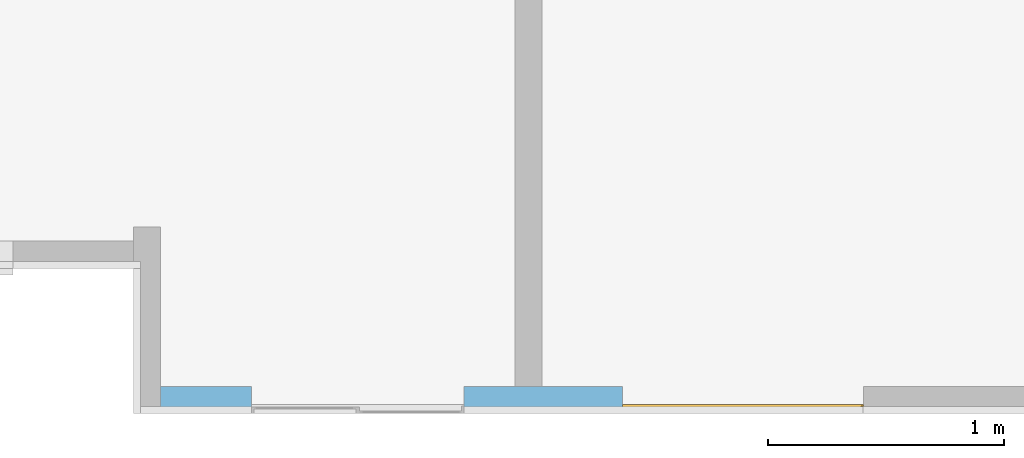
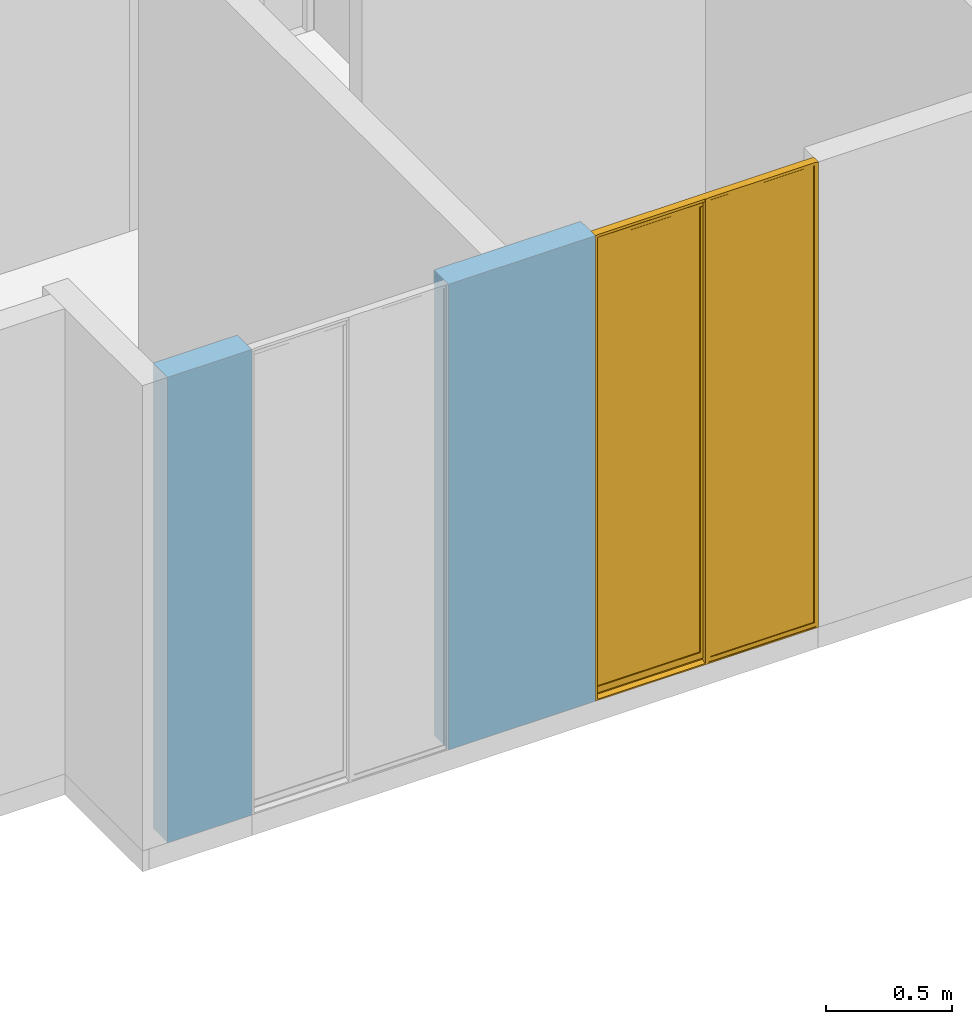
# One storey, part 12 of 47: 1 window, 2 openings, plus 1 element that does not belong to this part.
"""IFC4 building model written with IfcOpenShell, lengths in metres."""

from ifc_helpers import new_model, entity, si_unit, converted_unit, derived_unit, direction, frame, origin, place, context, subcontext, project, spatial, indexed_curve, outline, extrude, polygons, source, transform, mapped, material, constituent, constituent_set, type_object, type_shapes, element, fill, save


model = new_model("IFC4")

# Units and contexts
model_context = context("Model", 3, precision=1e-05, world=origin(), true_north=direction((6.123031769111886e-17, 1.0)))
body_context = subcontext(model_context, "Body", "Model", "MODEL_VIEW")
ifc_project = project(units=[si_unit("LENGTHUNIT", "METRE"), si_unit("AREAUNIT", "SQUARE_METRE"), si_unit("VOLUMEUNIT", "CUBIC_METRE"), converted_unit("PLANEANGLEUNIT", "DEGREE", entity("IfcRatioMeasure", 0.017453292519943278), si_unit("PLANEANGLEUNIT", "RADIAN"), dimensions=[0, 0, 0, 0, 0, 0, 0]), si_unit("MASSUNIT", "GRAM", prefix="KILO"), derived_unit("MASSDENSITYUNIT", [(si_unit("MASSUNIT", "GRAM", prefix="KILO"), 1), (si_unit("LENGTHUNIT", "METRE"), -3)]), derived_unit("IONCONCENTRATIONUNIT", [(si_unit("MASSUNIT", "GRAM", prefix="KILO"), 1), (si_unit("LENGTHUNIT", "METRE"), -3)]), derived_unit("MOMENTOFINERTIAUNIT", [(si_unit("LENGTHUNIT", "METRE"), 4)]), si_unit("TIMEUNIT", "SECOND"), si_unit("FREQUENCYUNIT", "HERTZ"), si_unit("THERMODYNAMICTEMPERATUREUNIT", "DEGREE_CELSIUS"), derived_unit("THERMALTRANSMITTANCEUNIT", [(si_unit("MASSUNIT", "GRAM", prefix="KILO"), 1), (si_unit("THERMODYNAMICTEMPERATUREUNIT", "KELVIN"), -1), (si_unit("TIMEUNIT", "SECOND"), -3)]), derived_unit("THERMALCONDUCTANCEUNIT", [(si_unit("MASSUNIT", "GRAM", prefix="KILO"), 1), (si_unit("THERMODYNAMICTEMPERATUREUNIT", "KELVIN"), -1), (si_unit("TIMEUNIT", "SECOND"), -3), (si_unit("LENGTHUNIT", "METRE"), 1)]), derived_unit("VOLUMETRICFLOWRATEUNIT", [(si_unit("LENGTHUNIT", "METRE"), 3), (si_unit("TIMEUNIT", "SECOND"), -1)]), derived_unit("MASSFLOWRATEUNIT", [(si_unit("MASSUNIT", "GRAM", prefix="KILO"), 1), (si_unit("TIMEUNIT", "SECOND"), -1)]), derived_unit("ROTATIONALFREQUENCYUNIT", [(si_unit("TIMEUNIT", "SECOND"), -1)]), si_unit("ELECTRICCURRENTUNIT", "AMPERE"), si_unit("ELECTRICVOLTAGEUNIT", "VOLT"), si_unit("POWERUNIT", "WATT"), si_unit("FORCEUNIT", "NEWTON", prefix="KILO"), si_unit("ILLUMINANCEUNIT", "LUX"), si_unit("LUMINOUSFLUXUNIT", "LUMEN"), si_unit("LUMINOUSINTENSITYUNIT", "CANDELA"), derived_unit("USERDEFINED", [(si_unit("MASSUNIT", "GRAM", prefix="KILO"), -1), (si_unit("LENGTHUNIT", "METRE"), -2), (si_unit("TIMEUNIT", "SECOND"), 3), (si_unit("LUMINOUSFLUXUNIT", "LUMEN"), 1)]), derived_unit("USERDEFINED", [(si_unit("MASSUNIT", "GRAM", prefix="KILO"), 1), (si_unit("TIMEUNIT", "SECOND"), -3), (si_unit("LENGTHUNIT", "METRE"), 3), (si_unit("ELECTRICCURRENTUNIT", "AMPERE"), -2)]), derived_unit("SOUNDPOWERUNIT", [(si_unit("MASSUNIT", "GRAM", prefix="KILO"), 1), (si_unit("TIMEUNIT", "SECOND"), -3), (si_unit("LENGTHUNIT", "METRE"), 2)]), derived_unit("SOUNDPRESSUREUNIT", [(si_unit("MASSUNIT", "GRAM", prefix="KILO"), 1), (si_unit("LENGTHUNIT", "METRE"), -1), (si_unit("TIMEUNIT", "SECOND"), -2)]), derived_unit("LINEARVELOCITYUNIT", [(si_unit("LENGTHUNIT", "METRE"), 1), (si_unit("TIMEUNIT", "SECOND"), -1)]), si_unit("PRESSUREUNIT", "PASCAL"), derived_unit("USERDEFINED", [(si_unit("MASSUNIT", "GRAM", prefix="KILO"), 1), (si_unit("LENGTHUNIT", "METRE"), -2), (si_unit("TIMEUNIT", "SECOND"), -2)]), derived_unit("LINEARFORCEUNIT", [(si_unit("MASSUNIT", "GRAM", prefix="KILO"), 1), (si_unit("TIMEUNIT", "SECOND"), -2)]), derived_unit("PLANARFORCEUNIT", [(si_unit("MASSUNIT", "GRAM", prefix="KILO"), 1), (si_unit("LENGTHUNIT", "METRE"), -1), (si_unit("TIMEUNIT", "SECOND"), -2)]), derived_unit("SPECIFICHEATCAPACITYUNIT", [(si_unit("THERMODYNAMICTEMPERATUREUNIT", "KELVIN"), -1), (si_unit("LENGTHUNIT", "METRE"), 2), (si_unit("TIMEUNIT", "SECOND"), -2)]), derived_unit("HEATINGVALUEUNIT", [(si_unit("LENGTHUNIT", "METRE"), 2), (si_unit("TIMEUNIT", "SECOND"), -2)]), derived_unit("VAPORPERMEABILITYUNIT", [(si_unit("LENGTHUNIT", "METRE"), -1), (si_unit("TIMEUNIT", "SECOND"), 1)]), derived_unit("DYNAMICVISCOSITYUNIT", [(si_unit("MASSUNIT", "GRAM", prefix="KILO"), 1), (si_unit("TIMEUNIT", "SECOND"), -1), (si_unit("LENGTHUNIT", "METRE"), -1)]), derived_unit("THERMALEXPANSIONCOEFFICIENTUNIT", [(si_unit("THERMODYNAMICTEMPERATUREUNIT", "KELVIN"), -1)]), derived_unit("MODULUSOFELASTICITYUNIT", [(si_unit("MASSUNIT", "GRAM", prefix="KILO"), 1), (si_unit("LENGTHUNIT", "METRE"), -1), (si_unit("TIMEUNIT", "SECOND"), -2)]), derived_unit("ISOTHERMALMOISTURECAPACITYUNIT", [(si_unit("LENGTHUNIT", "METRE"), 3), (si_unit("MASSUNIT", "GRAM", prefix="KILO"), -1)]), derived_unit("MOISTUREDIFFUSIVITYUNIT", [(si_unit("TIMEUNIT", "SECOND"), -1), (si_unit("LENGTHUNIT", "METRE"), 2)])], contexts=[model_context])

# Site, building, storey
site_placement = place(None, origin())
site = spatial("IfcSite", under=ifc_project, at=site_placement, Name="Default", CompositionType="ELEMENT")
building_placement = place(site_placement, origin())
building = spatial("IfcBuilding", under=site, at=building_placement, CompositionType="ELEMENT")
storey_placement = place(building_placement, frame((0.0, 0.0, 11.750000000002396)))
storey = spatial("IfcBuildingStorey", under=building, at=storey_placement, Name="Nivel 6", CompositionType="ELEMENT", Elevation=11.750000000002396)

# Wall, openings, window
ifc_material_1 = material(Name="Ladrillo claro (Aire)", Category="Materials")
wall_type = type_object("IfcWallType", Name="Basic Wall:B2010 - 0.115m - Muro exterior en mampostería - Ladrillo", PredefinedType="STANDARD")
wall_placement = place(storey_placement, frame((12.577500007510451, -12.812500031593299, 0.0)))
wall = element("IfcWall", 1, at=wall_placement, inside=storey, type_object=wall_type, material=ifc_material_1, Name="Basic Wall:B2010 - 0.115m - Muro exterior en mampostería - Ladrillo", ObjectType="Basic Wall:B2010 - 0.115m - Muro exterior en mampostería - Ladrillo", PredefinedType="NOTDEFINED", context=body_context, shape_type="Tessellation", body=[
    polygons([(1.1551788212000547e-17, -0.057499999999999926, 2.250000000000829), (1.1551788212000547e-17, -0.057499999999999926, -2.1657342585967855e-15), (0.3850000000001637, -0.057499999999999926, -2.1657342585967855e-15), (0.3850000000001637, -0.057499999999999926, 2.250000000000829), (6.500625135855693e-16, 0.057499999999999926, -2.1657342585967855e-15), (0.3850000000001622, 0.057499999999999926, -2.1657342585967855e-15), (0.3850000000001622, 0.057499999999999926, 2.250000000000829), (6.500625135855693e-16, 0.057499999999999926, 2.250000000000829)], [[[1, 2, 3, 4]], [[2, 5, 6, 3]], [[4, 3, 6, 7]], [[2, 1, 8, 5]], [[8, 1, 4, 7]], [[5, 8, 7, 6]]], closed=True),
    polygons([(1.9557999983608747, 0.057499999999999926, 2.250000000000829), (1.9557999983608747, 0.057499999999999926, -2.1657342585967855e-15), (1.6149999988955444, 0.05750000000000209, -2.1657342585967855e-15), (1.4999999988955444, 0.057499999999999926, -2.1657342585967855e-15), (1.2850000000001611, 0.057499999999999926, -2.1657342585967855e-15), (1.2850000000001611, 0.057499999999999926, 2.250000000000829), (1.4999999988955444, 0.057499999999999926, 2.2500000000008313), (1.6149999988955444, 0.05750000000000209, 2.2500000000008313), (1.9557999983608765, -0.057499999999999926, 2.250000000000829), (1.2850000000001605, -0.057499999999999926, 2.250000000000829), (1.9557999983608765, -0.057499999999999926, -2.1657342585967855e-15), (1.2850000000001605, -0.057499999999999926, -2.1657342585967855e-15)], [[[1, 2, 3, 4, 5, 6, 7, 8]], [[9, 1, 8, 7, 6, 10]], [[9, 11, 2, 1]], [[12, 10, 6, 5]], [[2, 11, 12, 5, 4, 3]], [[11, 9, 10, 12]]], closed=True),
])
opening_1_placement = place(wall_placement, frame((1.9557999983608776, -0.05749999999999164, 0.0)))
opening_1 = element("IfcOpeningElement", 2, at=opening_1_placement, cuts=wall, Name="B2020 - Ventana corrediza 2C - Aluminio + Vidrio:B2020 - 1.02m x 2.25m - Ventana corrediza 2C - Aluminio + Vidrio:1", PredefinedType="OPENING", context=body_context, shape_type="SweptSolid", body=[
    extrude(outline(indexed_curve([(0.0, 1.0199999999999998), (0.0, 7.374544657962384e-30), (2.2499999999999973, 7.374544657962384e-30), (2.249999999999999, 1.0199999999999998), (0.0, 1.0199999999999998)], self_intersect=False)), frame((0.0, 0.0, 0.0), z_axis=(0.0, 1.0, 0.0), x_axis=(0.0, 0.0, 1.0)), (0.0, 0.0, 1.0), 0.115),
])
opening_2_placement = place(wall_placement, frame((0.38500000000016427, -0.05749999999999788, 0.0)))
element("IfcOpeningElement", 3, at=opening_2_placement, cuts=wall, Name="B2020 - Ventana corrediza 2C - Aluminio + Vidrio:B2020 - 0.90m x 2.25m - Ventana corrediza 2C - Aluminio + Vidrio:1", PredefinedType="OPENING", context=body_context, shape_type="SweptSolid", body=[
    extrude(outline(indexed_curve([(0.0, 0.899999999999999), (0.0, 3.6637865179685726e-30), (2.2499999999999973, 3.6637865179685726e-30), (2.249999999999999, 0.899999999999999), (0.0, 0.899999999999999)], self_intersect=False)), frame((0.0, 0.0, 0.0), z_axis=(0.0, 1.0, 0.0), x_axis=(0.0, 0.0, 1.0)), (0.0, 0.0, 1.0), 0.115),
])
ifc_material_2 = material(Name="Vidrio", Category="Materials")
ifc_constituent_1 = constituent(ifc_material_2, Name="Vidrio", Category="Materials")
ifc_material_3 = material(Name="<Unnamed>")
ifc_constituent_2 = constituent(ifc_material_3, Name="<Unnamed>")
ifc_constituent_set_1 = constituent_set(constituents=[ifc_constituent_1, ifc_constituent_2])
ifc_constituent_3 = constituent(ifc_material_2, Name="Vidrio", Category="Materials")
ifc_constituent_4 = constituent(ifc_material_3, Name="<Unnamed>")
ifc_constituent_set_2 = constituent_set(constituents=[ifc_constituent_3, ifc_constituent_4])
window_type = type_object("IfcWindowType", Name="B2020 - Ventana corrediza 2C - Aluminio + Vidrio:B2020 - 1.02m x 2.25m - Ventana corrediza 2C - Aluminio + Vidrio", PartitioningType="NOTDEFINED", PredefinedType="WINDOW", material=ifc_constituent_set_2)
shared_shape = source(origin(), body_context, "Body", "Tessellation", [
    polygons([(0.48981286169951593, 0.11062877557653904, 0.028641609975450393), (0.48981286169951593, 0.10552744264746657, 0.028641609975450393), (0.01996764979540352, 0.10552744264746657, 0.028641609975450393), (0.019967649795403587, 0.11062877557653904, 0.028641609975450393), (0.48981286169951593, 0.11062877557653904, 2.2347073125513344), (0.48981286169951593, 0.10552744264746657, 2.2347073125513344), (0.01996764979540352, 0.10552744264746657, 2.2347073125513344), (0.019967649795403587, 0.11062877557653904, 2.2347073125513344)], [[[1, 2, 3, 4]], [[5, 6, 2, 1]], [[6, 7, 3, 2]], [[7, 8, 4, 3]], [[8, 5, 1, 4]], [[5, 8, 7, 6]]], closed=True),
    polygons([(1.0011536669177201, 0.0938089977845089, 0.054189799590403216), (1.0011536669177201, 0.08951300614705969, 0.054189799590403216), (0.5317289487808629, 0.08951300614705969, 0.054189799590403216), (0.5317289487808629, 0.0938089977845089, 0.054189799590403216), (1.0011536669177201, 0.0938089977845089, 2.2043993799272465), (1.0011536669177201, 0.08951300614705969, 2.2043993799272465), (0.5317289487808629, 0.08951300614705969, 2.2043993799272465), (0.5317289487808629, 0.0938089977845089, 2.2043993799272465)], [[[1, 2, 3, 4]], [[5, 6, 2, 1]], [[6, 7, 3, 2]], [[7, 8, 4, 3]], [[8, 5, 1, 4]], [[5, 8, 7, 6]]], closed=True),
    polygons([(1.0200000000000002, 0.07999999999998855, 0.020380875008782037), (1.0200000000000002, 0.07999999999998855, -2.5718094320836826e-15), (1.0200000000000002, 0.1149999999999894, -2.5718094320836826e-15), (1.0200000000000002, 0.1150000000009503, 2.2499999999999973), (1.0200000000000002, 0.07720993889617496, 2.2499999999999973), (1.0200000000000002, 0.07720993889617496, 2.2365872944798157), (1.0200000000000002, 0.07857307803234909, 2.2365872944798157), (1.0200000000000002, 0.07857307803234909, 2.24863686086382), (1.0200000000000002, 0.08683610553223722, 2.24863686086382), (1.0200000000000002, 0.0868361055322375, 0.017447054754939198), (1.0200000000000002, 0.08124999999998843, 0.017447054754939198), (1.0200000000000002, 0.08124999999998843, 0.02163087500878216), (1.0200000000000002, 0.07857761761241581, 0.02163087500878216), (1.0200000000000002, 0.07857761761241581, 0.025674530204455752), (1.0200000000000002, 0.07732761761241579, 0.025674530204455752), (1.0200000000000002, 0.07732761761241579, 0.020380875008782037), (2.0303758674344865e-16, 0.0799999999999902, 0.020380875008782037), (2.0303758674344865e-16, 0.0799999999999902, -2.5718094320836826e-15), (2.0303758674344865e-16, 0.11499999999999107, -2.5718094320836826e-15), (0.5033545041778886, 0.1149999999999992, 2.2499999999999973), (0.5166454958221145, 0.1149999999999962, 2.2499999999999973), (0.5166454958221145, 0.11499999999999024, 0.006176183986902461), (1.010102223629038, 0.11499999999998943, 0.006176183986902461), (1.010102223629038, 0.1150000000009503, 2.2499999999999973), (2.707167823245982e-16, 0.1150000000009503, 2.2499999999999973), (0.009999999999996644, 0.11500000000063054, 2.2499999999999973), (0.009999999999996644, 0.11499999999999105, 0.006176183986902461), (0.5033545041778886, 0.11499999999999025, 0.006176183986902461), (1.003701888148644, 0.08683610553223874, 2.2069861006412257), (1.0037018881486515, 0.0868361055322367, 0.0519155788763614), (0.5291807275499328, 0.08683610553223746, 0.0519155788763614), (0.5291807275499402, 0.08683610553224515, 2.2043993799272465), (0.5166454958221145, 0.08683610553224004, 2.2043993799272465), (0.5166454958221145, 0.08683610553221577, 2.2069861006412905), (1.0037018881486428, 0.08683610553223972, 2.237270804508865), (0.5166454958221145, 0.0868361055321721, 2.237270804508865), (0.5166454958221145, 0.08683610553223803, 2.24863686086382), (0.5019528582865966, 0.08683610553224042, 2.24863686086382), (0.5019528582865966, 0.08683610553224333, 0.01744705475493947), (0.5166454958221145, 0.08683610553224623, 0.017447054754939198), (0.5166454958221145, 0.08683610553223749, 0.021630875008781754), (1.0162371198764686, 0.08683610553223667, 0.02163087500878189), (1.0162371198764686, 0.08683610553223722, 0.01744705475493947), (1.0037018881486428, 0.08683610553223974, 2.24863686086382), (2.0303758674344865e-16, 0.0812499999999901, 0.017447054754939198), (1.0162371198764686, 0.09036136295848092, 0.017447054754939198), (0.5166454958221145, 0.09036136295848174, 0.017447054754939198), (0.5019528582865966, 0.09036136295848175, 0.017447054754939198), (0.009999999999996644, 0.09036136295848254, 0.017447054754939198), (0.009999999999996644, 0.08300000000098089, 0.017447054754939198), (2.0303758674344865e-16, 0.08300000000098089, 0.017447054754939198), (2.0303758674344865e-16, 0.0812499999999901, 0.02163087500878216), (2.0303758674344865e-16, 0.07857761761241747, 0.02163087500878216), (2.0303758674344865e-16, 0.07857761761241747, 0.025674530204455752), (2.0303758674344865e-16, 0.07732761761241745, 0.025674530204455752), (2.0303758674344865e-16, 0.07732761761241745, 0.020380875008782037), (1.0011570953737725, 0.09380711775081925, 0.054191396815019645), (1.0037018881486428, 0.09648589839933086, 0.051915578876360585), (0.529180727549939, 0.09648589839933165, 0.051915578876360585), (0.5317227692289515, 0.09380452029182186, 0.054191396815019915), (1.0037018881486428, 0.09648589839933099, 2.237270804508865), (1.0011536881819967, 0.09378706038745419, 2.237270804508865), (1.0011536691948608, 0.09378696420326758, 2.24863686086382), (1.0037018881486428, 0.09648589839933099, 2.24863686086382), (1.0037018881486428, 0.09648589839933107, 2.206986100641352), (0.5166454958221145, 0.09648589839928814, 2.2069861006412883), (0.5166454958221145, 0.09648589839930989, 2.237270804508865), (1.010102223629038, 0.09648589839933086, 2.24863686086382), (1.010102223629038, 0.09648589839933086, 0.021630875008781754), (0.5166454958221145, 0.09648589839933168, 0.02163087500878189), (0.5166454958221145, 0.09648589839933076, 2.2043993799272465), (0.5291807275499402, 0.09648589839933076, 2.2043993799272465), (0.5317289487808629, 0.09379979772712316, 2.2043993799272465), (1.0011598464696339, 0.08951748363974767, 0.05419139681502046), (0.5317255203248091, 0.08951488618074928, 0.05419139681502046), (1.0011537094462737, 0.08953496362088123, 2.237270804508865), (1.0011536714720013, 0.08953504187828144, 2.24863686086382), (0.5317289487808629, 0.08952211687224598, 2.2043992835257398), (0.5019528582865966, 0.10334183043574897, 2.24863686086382), (0.5019528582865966, 0.10334183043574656, 0.014402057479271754), (0.5019528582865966, 0.09363692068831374, 0.014402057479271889), (0.5019528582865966, 0.0936369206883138, 0.010600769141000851), (0.5019528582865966, 0.09036136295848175, 0.011279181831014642), (0.5166454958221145, 0.11281438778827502, 2.2499999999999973), (0.5166454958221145, 0.11281438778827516, 2.2369062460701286), (0.5166454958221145, 0.11061545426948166, 2.2347073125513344), (0.5166454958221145, 0.10554076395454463, 2.2347073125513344), (0.5166454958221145, 0.10334183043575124, 2.2369062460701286), (0.5166454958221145, 0.10334183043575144, 2.24863686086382), (0.5166454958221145, 0.09380890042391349, 2.204399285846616), (0.5166454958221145, 0.09036136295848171, 0.011279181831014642), (1.0162371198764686, 0.09648589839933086, 0.021630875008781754), (1.0162371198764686, 0.09648589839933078, 0.010010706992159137), (1.0162371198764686, 0.0903613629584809, 0.011279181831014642), (1.010102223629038, 0.09648589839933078, 0.010010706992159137), (1.010102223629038, 0.10334183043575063, 2.24863686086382), (1.010102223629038, 0.10334183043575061, 2.2369062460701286), (1.010102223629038, 0.1055407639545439, 2.2347073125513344), (1.010102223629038, 0.11061545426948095, 2.2347073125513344), (1.010102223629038, 0.11281438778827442, 2.2369062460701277), (1.010102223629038, 0.11281438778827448, 2.2499999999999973), (2.0303758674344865e-16, 0.08300000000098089, 2.24863686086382), (2.0303758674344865e-16, 0.07857307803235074, 2.24863686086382), (2.0303758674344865e-16, 0.07857307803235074, 2.2365872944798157), (2.0303758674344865e-16, 0.07720993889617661, 2.2365872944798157), (2.0303758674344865e-16, 0.07720993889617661, 2.2499999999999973), (0.009999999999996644, 0.08300000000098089, 2.24863686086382), (0.009999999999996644, 0.09036136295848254, 0.011279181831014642), (0.009999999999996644, 0.09363692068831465, 0.010600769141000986), (0.009999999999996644, 0.09363692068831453, 0.014402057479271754), (0.009999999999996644, 0.10334183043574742, 0.014402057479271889), (0.009999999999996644, 0.10334183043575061, 2.24863686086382), (0.5033545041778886, 0.11281438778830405, 0.006628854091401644), (0.5033545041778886, 0.112814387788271, 2.2499999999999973), (0.009999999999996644, 0.11281438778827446, 2.2499999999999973), (0.009999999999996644, 0.11281438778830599, 0.0066288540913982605), (0.4923610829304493, 0.11281438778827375, 0.02682441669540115), (0.48981286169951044, 0.11062877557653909, 0.028641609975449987), (0.4898128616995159, 0.1106287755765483, 2.2347139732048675), (0.4923610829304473, 0.11281438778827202, 2.236906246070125), (0.019967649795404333, 0.11062877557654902, 0.028641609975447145), (0.017419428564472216, 0.11281438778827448, 0.02682441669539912), (0.017419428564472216, 0.1128143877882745, 2.236906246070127), (0.019967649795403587, 0.11062877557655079, 2.2347139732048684), (0.019967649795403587, 0.10552744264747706, 0.028641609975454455), (0.01741942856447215, 0.1033418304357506, 0.026824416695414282), (0.4923610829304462, 0.10334183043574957, 0.02682441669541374), (0.48981286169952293, 0.10552744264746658, 0.028641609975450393), (0.019968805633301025, 0.10553009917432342, 2.234711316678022), (0.01741942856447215, 0.10334183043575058, 2.23690624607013), (0.49236108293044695, 0.10334183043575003, 2.2369062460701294), (0.4898117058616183, 0.1055300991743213, 2.234711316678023), (1.0011537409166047, 0.09378737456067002, 2.2043889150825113), (1.0011555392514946, 0.0895303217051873, 2.2043931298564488), (0.5166454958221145, 0.08951315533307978, 2.2043993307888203)], [[[1, 2, 3, 4, 5, 6, 7, 8, 9, 10, 11, 12, 13, 14, 15, 16]], [[17, 18, 2, 1]], [[2, 18, 19, 3]], [[20, 21, 22, 23, 24, 4, 3, 19, 25, 26, 27, 28]], [[35, 36, 37, 38, 39, 40, 41, 42, 43, 10, 9, 44], [29, 30, 31, 32, 33, 34]], [[45, 11, 10, 43, 46, 47, 40, 39, 48, 49, 50, 51]], [[45, 52, 12, 11]], [[52, 53, 13, 12]], [[53, 54, 14, 13]], [[54, 55, 15, 14]], [[55, 56, 16, 15]], [[56, 17, 1, 16]], [[57, 58, 59, 60]], [[61, 62, 63, 64]], [[58, 65, 66, 67, 61, 64, 68, 69, 70, 71, 72, 59]], [[72, 73, 60, 59]], [[74, 57, 60, 75]], [[62, 76, 77, 63]], [[60, 73, 78, 75]], [[30, 74, 75, 31]], [[76, 35, 44, 77]], [[78, 32, 31, 75]], [[48, 39, 38, 79, 80, 81, 82, 83]], [[22, 21, 84, 85, 86, 87, 88, 89, 37, 36, 67, 66, 90, 71, 70, 41, 40, 47, 91]], [[41, 70, 69, 92, 42]], [[92, 93, 94, 46, 43, 42]], [[69, 95, 93, 92]], [[24, 23, 95, 69, 68, 96, 97, 98, 99, 100, 101]], [[17, 56, 55, 54, 53, 52, 45, 51, 102, 103, 104, 105, 106, 25, 19, 18]], [[51, 50, 107, 102]], [[48, 83, 108, 49]], [[50, 49, 108, 109, 110, 111, 112, 107]], [[83, 82, 109, 108]], [[113, 114, 20, 28]], [[26, 115, 116, 27]], [[84, 101, 100, 85]], [[82, 81, 110, 109]], [[117, 118, 119, 120]], [[121, 122, 123, 124]], [[122, 121, 118, 117]], [[125, 126, 127, 128]], [[88, 97, 96, 89]], [[126, 125, 129, 130]], [[128, 127, 131, 132]], [[81, 80, 111, 110]], [[125, 121, 124, 129]], [[121, 125, 128, 118]], [[118, 128, 132, 119]], [[5, 4, 24, 101, 84, 21, 20, 114, 115, 26, 25, 106]], [[65, 133, 73, 90, 66]], [[133, 134, 78, 73]], [[134, 29, 34, 135, 78]], [[76, 62, 61, 67, 36, 35]], [[33, 32, 78, 135]], [[104, 103, 8, 7]], [[105, 104, 7, 6]], [[106, 105, 6, 5]], [[123, 120, 119, 124]], [[132, 129, 124, 119]], [[131, 130, 129, 132]], [[8, 103, 102, 107, 112, 79, 38, 37, 89, 96, 68, 64, 63, 77, 44, 9]], [[87, 98, 97, 88]], [[86, 99, 98, 87]], [[85, 100, 99, 86]], [[73, 72, 71, 90]], [[111, 80, 79, 112], [127, 126, 130, 131]], [[115, 114, 113, 116], [117, 120, 123, 122]], [[113, 28, 27, 116]], [[22, 91, 94, 93, 95, 23]], [[91, 47, 46, 94]], [[135, 34, 33]], [[74, 30, 29, 134]], [[57, 74, 134, 133]], [[58, 57, 133, 65]]], closed=True),
])
type_shapes(window_type, [shared_shape])
window_placement = place(opening_1_placement, frame((1.0199999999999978, 0.1150000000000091, 0.0), z_axis=(0.0, 0.0, 1.0), x_axis=(-1.0, 0.0, 0.0)))
window = element("IfcWindow", 4, at=window_placement, inside=storey, type_object=window_type, material=ifc_constituent_set_1, Name="B2020 - Ventana corrediza 2C - Aluminio + Vidrio:B2020 - 1.02m x 2.25m - Ventana corrediza 2C - Aluminio + Vidrio", ObjectType="B2020 - Ventana corrediza 2C - Aluminio + Vidrio:B2020 - 1.02m x 2.25m - Ventana corrediza 2C - Aluminio + Vidrio", OverallHeight=2.2499999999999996, OverallWidth=1.0199999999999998, PartitioningType="NOTDEFINED", PredefinedType="WINDOW", context=body_context, shape_type="MappedRepresentation", body=[
    mapped(shared_shape, transform((0.0, 0.0, 0.0), scale=1.0)),
])
fill(opening_1, window)

save(model, "model.ifc")
